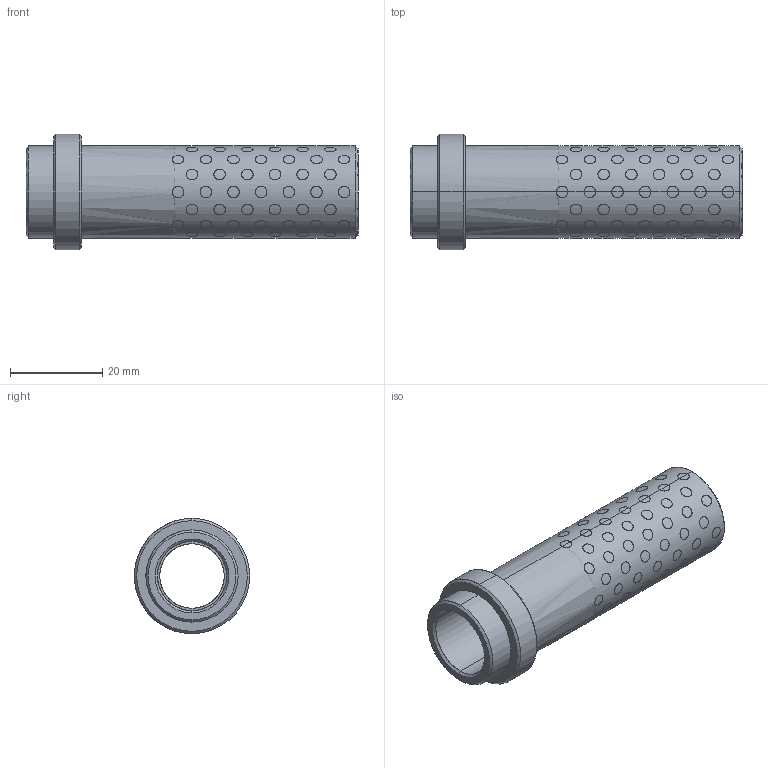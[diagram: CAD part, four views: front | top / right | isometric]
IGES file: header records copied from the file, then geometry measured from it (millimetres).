
Start section: START RECORD GO HERE.
Global section: file name: G31214066.igs; native system: DASSAULT SYSTEMES CATIA V5 R20 - www.3ds.com; preprocessor: CATIA Version 5 Release 20 ; author: r.borello; organization: CFTORINO; date: 20190624.121950; units: millimetre
Bounding box: 72 x 25 x 25 mm (x, y, z)
Surface area: 13344.1 mm2 (no closed solid volume)
Topology: 0 solids, 0 shells, 679 faces, 2940 edges, 2940 vertices
Faces by surface type: revolution 674, plane 5
